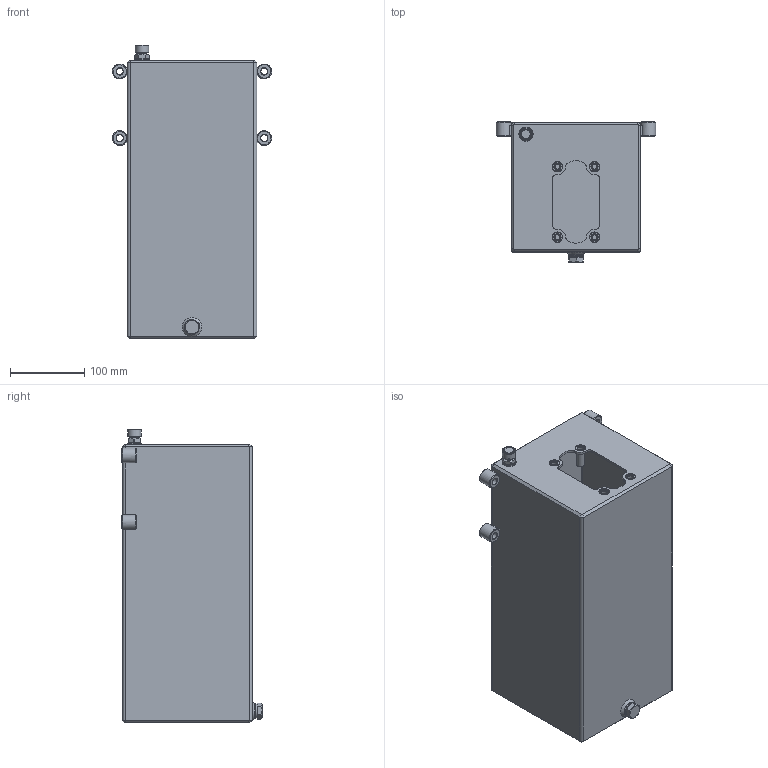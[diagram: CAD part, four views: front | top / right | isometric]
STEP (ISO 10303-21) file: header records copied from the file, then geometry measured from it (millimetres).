
FILE_DESCRIPTION(/* description */ ('Unknown'),/* implementation_level */ '2;1');
FILE_NAME(/* name */ 'SR10FE',/* time_stamp */ '2024-11-28T09:37:30+01:00',/* author */ ('Unknown'),/* organization */ ('Unknown'),/* preprocessor_version */ 'ST-DEVELOPER v19.4',/* originating_system */ 'Solid Edge',/* authorisation */ 'Unknown');
FILE_SCHEMA (('AUTOMOTIVE_DESIGN {1 0 10303 214 3 1 1}'));
Length unit declared in the file: millimetre
Products named in the file (1): SR10FE
Bounding box: 215 x 189.5 x 396.6 mm (x, y, z)
Volume: 951311.4 mm3; surface area: 635402.9 mm2
Topology: 2 solids, 2 shells, 259 faces, 605 edges, 374 vertices
Faces by surface type: plane 125, cylinder 67, cone 46, torus 19, bspline 2
Full cylindrical faces by diameter (mm): 5.8 x1, 6.647 x8, 9 x4, 9.15 x4, 10.5 x1, 10.88 x4, 10.9 x4, 13.157 x1, 13.2 x4, 13.5 x1, 15 x1, 16.8 x1, 17 x1, 18 x1, 19 x2, 20 x6, 20.1 x1
Entity records: 8353 total; most frequent: DIRECTION 1195, CARTESIAN_POINT 1164, ORIENTED_EDGE 924, AXIS2_PLACEMENT_3D 489, EDGE_CURVE 462, EDGE_LOOP 398, FACE_BOUND 398, VERTEX_POINT 332
